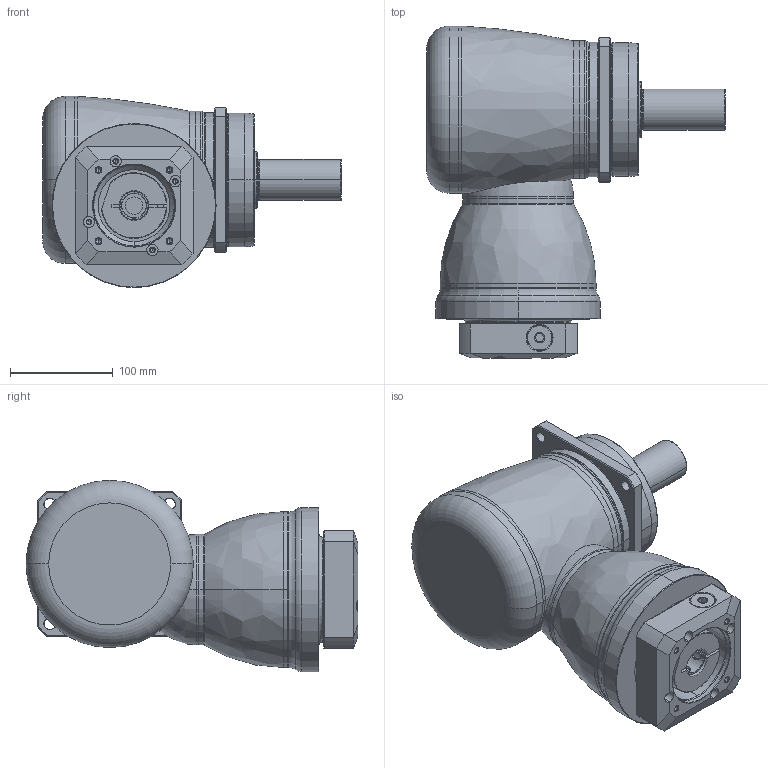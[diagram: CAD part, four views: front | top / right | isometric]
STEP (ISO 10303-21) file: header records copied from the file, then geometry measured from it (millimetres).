
FILE_DESCRIPTION((''),'2;1');
FILE_NAME('KF140_1ST_24-P0409500101_ASM','2016-06-22T',('d01943'),(''),'PRO/ENGINEER BY PARAMETRIC TECHNOLOGY CORPORATION, 2008410','PRO/ENGINEER BY PARAMETRIC TECHNOLOGY CORPORATION, 2008410','');
FILE_SCHEMA(('CONFIG_CONTROL_DESIGN'));
Length unit declared in the file: millimetre
Products named in the file (11): P1008500002; P1804500001; P0915500001; P1315500001; P1007500001; P1318500001; P0409500101; P0503500010; P0912500201; 21711418017; KF140_1ST_24-P0409500101_ASM
Assembly tree (10 placements, depth 2):
  KF140_1ST_24-P0409500101_ASM
    P1008500002
    P1804500001
    P0915500001
    P1315500001
    P1007500001
    P1318500001
    P0409500101
    P0503500010
    P0912500201
    21711418017
Bounding box: 291 x 323.5 x 186.5 mm (x, y, z)
Volume: 4486697.7 mm3; surface area: 499818.6 mm2
Topology: 11 solids, 11 shells, 461 faces, 1038 edges, 615 vertices
Faces by surface type: cylinder 156, cone 124, plane 96, torus 62, bspline 21, sphere 2
Entity records: 18031 total; most frequent: CARTESIAN_POINT 7448, DIRECTION 2349, ORIENTED_EDGE 2040, EDGE_CURVE 1020, AXIS2_PLACEMENT_3D 995, VERTEX_POINT 615, CIRCLE 534, EDGE_LOOP 529
